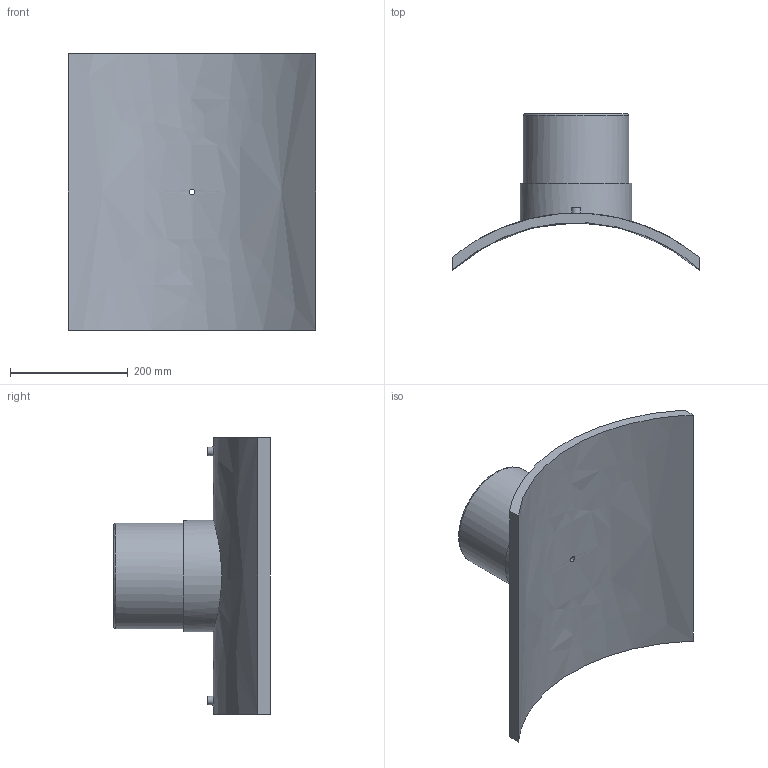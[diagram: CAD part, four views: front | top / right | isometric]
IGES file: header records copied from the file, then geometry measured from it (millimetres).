
Global section: file name: 495803630180T; native system: Autodesk Inventor 2019; preprocessor: unknown; author: KIM; date: 20240404.115317; units: millimetre
Bounding box: 420 x 265.21 x 470 mm (x, y, z)
Volume: 5191567.6 mm3; surface area: 651185.2 mm2
Topology: 1 solids, 1 shells, 29 faces, 60 edges, 43 vertices
Faces by surface type: bspline 29
